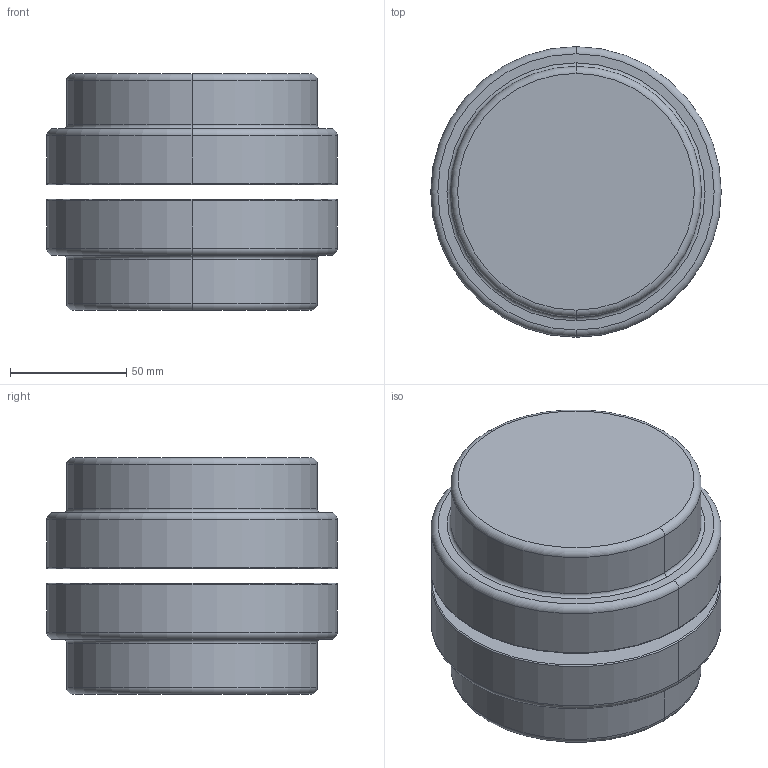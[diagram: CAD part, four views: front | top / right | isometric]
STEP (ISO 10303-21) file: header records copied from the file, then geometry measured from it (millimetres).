
FILE_DESCRIPTION (( 'STEP AP214' ), '1' );
FILE_NAME ('mobac_2x MTD-30 (ohne Bohrung).STEP', '2023-05-09T08:12:08', ( '' ), ( '' ), 'SwSTEP 2.0', 'SolidWorks 2022', '' );
FILE_SCHEMA (( 'AUTOMOTIVE_DESIGN' ));
Length unit declared in the file: millimetre
Products named in the file (1): mobac_2x MTD-30 (ohne Bohrung)
Bounding box: 124.97 x 124.97 x 101.85 mm (x, y, z)
Volume: 975179.8 mm3; surface area: 84213.2 mm2
Topology: 2 solids, 2 shells, 36 faces, 68 edges, 40 vertices
Faces by surface type: torus 16, cylinder 12, plane 8
Entity records: 963 total; most frequent: DIRECTION 198, CARTESIAN_POINT 145, ORIENTED_EDGE 136, AXIS2_PLACEMENT_3D 93, EDGE_CURVE 68, CIRCLE 56, VERTEX_POINT 40, EDGE_LOOP 40
